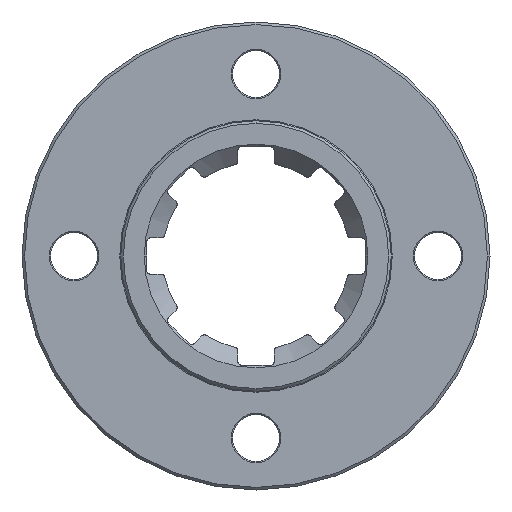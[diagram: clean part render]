
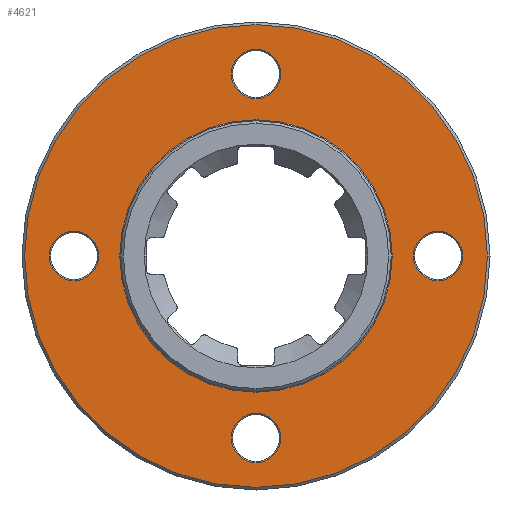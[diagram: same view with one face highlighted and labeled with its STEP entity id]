
A CAD part, left-side view. The second image highlights one B-rep face of the part: STEP entity #4621.
In plain terms, the highlighted planar face has unit normal (-1, 0, 0).
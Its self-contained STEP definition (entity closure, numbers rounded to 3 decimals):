
#2375=CARTESIAN_POINT('',(0.,0.,
0.));
#2376=DIRECTION('',(-1.,0.,0.));
#2377=DIRECTION('',(0.,-1.,0.));
#2378=AXIS2_PLACEMENT_3D('',#2375,#2376,#2377);
#2383=CARTESIAN_POINT('',(0.,0.,
0.));
#2384=DIRECTION('',(-1.,0.,0.));
#2385=DIRECTION('',(0.,1.,0.));
#2386=AXIS2_PLACEMENT_3D('',#2383,#2384,#2385);
#2391=CARTESIAN_POINT('',(0.,0.,0.));
#2392=DIRECTION('',(1.,0.,0.));
#2393=DIRECTION('',(0.,0.,1.));
#2394=AXIS2_PLACEMENT_3D('',#2391,#2392,#2393);
#2399=CARTESIAN_POINT('',(0.,0.,0.));
#2400=DIRECTION('',(1.,0.,0.));
#2401=DIRECTION('',(0.,0.,-1.));
#2402=AXIS2_PLACEMENT_3D('',#2399,#2400,#2401);
#2407=CARTESIAN_POINT('',(0.,0.,-35.));
#2408=DIRECTION('',(1.,0.,0.));
#2409=DIRECTION('',(0.,1.,0.));
#2410=AXIS2_PLACEMENT_3D('',#2407,#2408,#2409);
#2415=CARTESIAN_POINT('',(0.,0.,-35.));
#2416=DIRECTION('',(1.,0.,0.));
#2417=DIRECTION('',(0.,-1.,0.));
#2418=AXIS2_PLACEMENT_3D('',#2415,#2416,#2417);
#2423=CARTESIAN_POINT('',(0.,35.,0.));
#2424=DIRECTION('',(1.,0.,0.));
#2425=DIRECTION('',(0.,1.,0.));
#2426=AXIS2_PLACEMENT_3D('',#2423,#2424,#2425);
#2431=CARTESIAN_POINT('',(0.,35.,0.));
#2432=DIRECTION('',(1.,0.,0.));
#2433=DIRECTION('',(0.,-1.,0.));
#2434=AXIS2_PLACEMENT_3D('',#2431,#2432,#2433);
#2439=CARTESIAN_POINT('',(0.,0.,35.));
#2440=DIRECTION('',(1.,0.,0.));
#2441=DIRECTION('',(0.,1.,0.));
#2442=AXIS2_PLACEMENT_3D('',#2439,#2440,#2441);
#2447=CARTESIAN_POINT('',(0.,0.,35.));
#2448=DIRECTION('',(1.,0.,0.));
#2449=DIRECTION('',(0.,-1.,0.));
#2450=AXIS2_PLACEMENT_3D('',#2447,#2448,#2449);
#2455=CARTESIAN_POINT('',(0.,-35.,0.));
#2456=DIRECTION('',(1.,0.,0.));
#2457=DIRECTION('',(0.,1.,0.));
#2458=AXIS2_PLACEMENT_3D('',#2455,#2456,#2457);
#2463=CARTESIAN_POINT('',(0.,-35.,0.));
#2464=DIRECTION('',(1.,0.,0.));
#2465=DIRECTION('',(0.,-1.,0.));
#2466=AXIS2_PLACEMENT_3D('',#2463,#2464,#2465);
#2905=CARTESIAN_POINT('',(0.,-44.5,
0.));
#2906=CARTESIAN_POINT('',(0.,44.5,
0.));
#2907=VERTEX_POINT('',#2905);
#2908=VERTEX_POINT('',#2906);
#2941=CARTESIAN_POINT('',(0.,0.,
26.2));
#2942=CARTESIAN_POINT('',(0.,0.,
-26.2));
#2943=VERTEX_POINT('',#2941);
#2944=VERTEX_POINT('',#2942);
#2953=CARTESIAN_POINT('',(0.,4.75,-35.));
#2954=CARTESIAN_POINT('',(0.,-4.75,-35.));
#2955=VERTEX_POINT('',#2953);
#2956=VERTEX_POINT('',#2954);
#2969=CARTESIAN_POINT('',(0.,39.75,0.));
#2970=CARTESIAN_POINT('',(0.,30.25,0.));
#2971=VERTEX_POINT('',#2969);
#2972=VERTEX_POINT('',#2970);
#2985=CARTESIAN_POINT('',(0.,4.75,35.));
#2986=CARTESIAN_POINT('',(0.,-4.75,35.));
#2987=VERTEX_POINT('',#2985);
#2988=VERTEX_POINT('',#2986);
#3001=CARTESIAN_POINT('',(0.,-30.25,0.));
#3002=CARTESIAN_POINT('',(0.,-39.75,0.));
#3003=VERTEX_POINT('',#3001);
#3004=VERTEX_POINT('',#3002);
#4581=CARTESIAN_POINT('',(0.,0.,0.));
#4582=DIRECTION('',(-1.,0.,0.));
#4583=DIRECTION('',(0.,1.,0.));
#4584=AXIS2_PLACEMENT_3D('',#4581,#4582,#4583);
#4585=PLANE('',#4584);
#4587=ORIENTED_EDGE('',*,*,#4586,.F.);
#4588=ORIENTED_EDGE('',*,*,#4571,.F.);
#4589=EDGE_LOOP('',(#4587,#4588));
#4590=FACE_OUTER_BOUND('',#4589,.F.);
#4592=ORIENTED_EDGE('',*,*,#4591,.F.);
#4594=ORIENTED_EDGE('',*,*,#4593,.F.);
#4595=EDGE_LOOP('',(#4592,#4594));
#4596=FACE_BOUND('',#4595,.F.);
#4598=ORIENTED_EDGE('',*,*,#4597,.F.);
#4600=ORIENTED_EDGE('',*,*,#4599,.F.);
#4601=EDGE_LOOP('',(#4598,#4600));
#4602=FACE_BOUND('',#4601,.F.);
#4604=ORIENTED_EDGE('',*,*,#4603,.F.);
#4606=ORIENTED_EDGE('',*,*,#4605,.F.);
#4607=EDGE_LOOP('',(#4604,#4606));
#4608=FACE_BOUND('',#4607,.F.);
#4610=ORIENTED_EDGE('',*,*,#4609,.F.);
#4612=ORIENTED_EDGE('',*,*,#4611,.F.);
#4613=EDGE_LOOP('',(#4610,#4612));
#4614=FACE_BOUND('',#4613,.F.);
#4616=ORIENTED_EDGE('',*,*,#4615,.F.);
#4618=ORIENTED_EDGE('',*,*,#4617,.F.);
#4619=EDGE_LOOP('',(#4616,#4618));
#4620=FACE_BOUND('',#4619,.F.);
#4621=ADVANCED_FACE('',(#4590,#4596,#4602,#4608,#4614,#4620),#4585,.T.);
#2379=CIRCLE('',#2378,44.5);
#2387=CIRCLE('',#2386,44.5);
#2395=CIRCLE('',#2394,26.2);
#2403=CIRCLE('',#2402,26.2);
#2411=CIRCLE('',#2410,4.75);
#2419=CIRCLE('',#2418,4.75);
#2427=CIRCLE('',#2426,4.75);
#2435=CIRCLE('',#2434,4.75);
#2443=CIRCLE('',#2442,4.75);
#2451=CIRCLE('',#2450,4.75);
#2459=CIRCLE('',#2458,4.75);
#2467=CIRCLE('',#2466,4.75);
#4571=EDGE_CURVE('',#2908,#2907,#2387,.T.);
#4586=EDGE_CURVE('',#2907,#2908,#2379,.T.);
#4591=EDGE_CURVE('',#2943,#2944,#2395,.T.);
#4593=EDGE_CURVE('',#2944,#2943,#2403,.T.);
#4597=EDGE_CURVE('',#2955,#2956,#2411,.T.);
#4599=EDGE_CURVE('',#2956,#2955,#2419,.T.);
#4603=EDGE_CURVE('',#2971,#2972,#2427,.T.);
#4605=EDGE_CURVE('',#2972,#2971,#2435,.T.);
#4609=EDGE_CURVE('',#2987,#2988,#2443,.T.);
#4611=EDGE_CURVE('',#2988,#2987,#2451,.T.);
#4615=EDGE_CURVE('',#3003,#3004,#2459,.T.);
#4617=EDGE_CURVE('',#3004,#3003,#2467,.T.);
